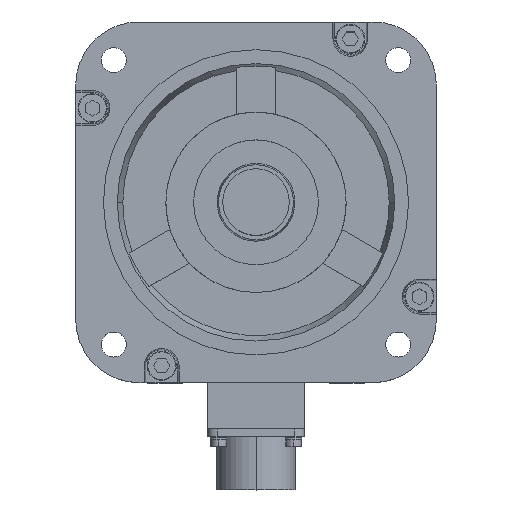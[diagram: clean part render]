
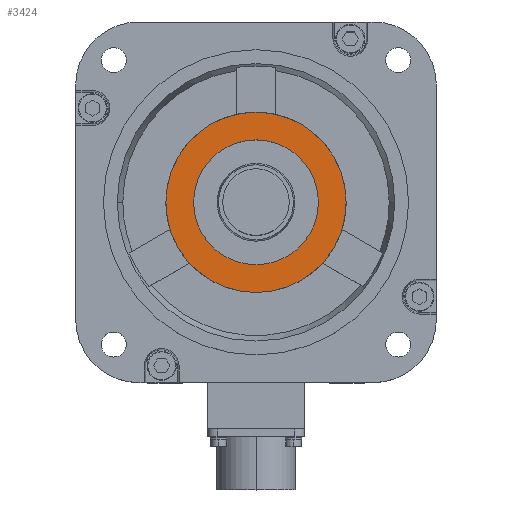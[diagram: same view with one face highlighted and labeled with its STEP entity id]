
A CAD part, top view. The second image highlights one B-rep face of the part: STEP entity #3424.
In plain terms, the highlighted planar face has unit normal (0, 0, 1).
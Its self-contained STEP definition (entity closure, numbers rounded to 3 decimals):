
#351 = EDGE_CURVE ( 'NONE', #370, #599, #6569, .T. ) ;
#370 = VERTEX_POINT ( 'NONE', #6587 ) ;
#599 = VERTEX_POINT ( 'NONE', #6968 ) ;
#3068 = EDGE_CURVE ( 'NONE', #599, #370, #11227, .T. ) ;
#3321 = ORIENTED_EDGE ( 'NONE', *, *, #23679, .T. ) ;
#3357 = ORIENTED_EDGE ( 'NONE', *, *, #4169, .T. ) ;
#3367 = EDGE_LOOP ( 'NONE', ( #3357, #3321 ) ) ;
#3394 = ORIENTED_EDGE ( 'NONE', *, *, #351, .F. ) ;
#3417 = ORIENTED_EDGE ( 'NONE', *, *, #3068, .F. ) ;
#3424 = ADVANCED_FACE ( 'NONE', ( #11887, #11886 ), #11885, .T. ) ;
#3426 = EDGE_LOOP ( 'NONE', ( #3417, #3394 ) ) ;
#4169 = EDGE_CURVE ( 'NONE', #4567, #4543, #13167, .T. ) ;
#4543 = VERTEX_POINT ( 'NONE', #13798 ) ;
#4567 = VERTEX_POINT ( 'NONE', #13829 ) ;
#6563 = DIRECTION ( 'NONE',  ( 1., 0., 0. ) ) ;
#6565 = DIRECTION ( 'NONE',  ( 0., 0., 1. ) ) ;
#6566 = CARTESIAN_POINT ( 'NONE',  ( 0., 0., 6. ) ) ;
#6567 = AXIS2_PLACEMENT_3D ( 'NONE', #6566, #6565, #6563 ) ;
#6569 = CIRCLE ( 'NONE', #6567, 22.5 ) ;
#6587 = CARTESIAN_POINT ( 'NONE',  ( -22.5, 0., 6. ) ) ;
#6968 = CARTESIAN_POINT ( 'NONE',  ( 22.5, 0., 6. ) ) ;
#11223 = DIRECTION ( 'NONE',  ( 1., 0., 0. ) ) ;
#11224 = DIRECTION ( 'NONE',  ( 0., 0., 1. ) ) ;
#11225 = CARTESIAN_POINT ( 'NONE',  ( 0., 0., 6. ) ) ;
#11226 = AXIS2_PLACEMENT_3D ( 'NONE', #11225, #11224, #11223 ) ;
#11227 = CIRCLE ( 'NONE', #11226, 22.5 ) ;
#11881 = DIRECTION ( 'NONE',  ( 1., 0., 0. ) ) ;
#11882 = DIRECTION ( 'NONE',  ( 0., 0., 1. ) ) ;
#11883 = CARTESIAN_POINT ( 'NONE',  ( 0., 0., 6. ) ) ;
#11884 = AXIS2_PLACEMENT_3D ( 'NONE', #11883, #11882, #11881 ) ;
#11885 = PLANE ( 'NONE',  #11884 ) ;
#11886 = FACE_OUTER_BOUND ( 'NONE', #3367, .T. ) ;
#11887 = FACE_BOUND ( 'NONE', #3426, .T. ) ;
#13163 = DIRECTION ( 'NONE',  ( 1., 0., 0. ) ) ;
#13164 = DIRECTION ( 'NONE',  ( 0., 0., 1. ) ) ;
#13165 = AXIS2_PLACEMENT_3D ( 'NONE', #13172, #13164, #13163 ) ;
#13167 = CIRCLE ( 'NONE', #13165, 32.5 ) ;
#13172 = CARTESIAN_POINT ( 'NONE',  ( 0., 0., 6. ) ) ;
#13798 = CARTESIAN_POINT ( 'NONE',  ( -32.5, 0., 6. ) ) ;
#13829 = CARTESIAN_POINT ( 'NONE',  ( 32.5, 0., 6. ) ) ;
#20813 = DIRECTION ( 'NONE',  ( 1., 0., 0. ) ) ;
#20816 = DIRECTION ( 'NONE',  ( 0., 0., 1. ) ) ;
#20817 = CARTESIAN_POINT ( 'NONE',  ( 0., 0., 6. ) ) ;
#20818 = AXIS2_PLACEMENT_3D ( 'NONE', #20817, #20816, #20813 ) ;
#20819 = CIRCLE ( 'NONE', #20818, 32.5 ) ;
#23679 = EDGE_CURVE ( 'NONE', #4543, #4567, #20819, .T. ) ;
